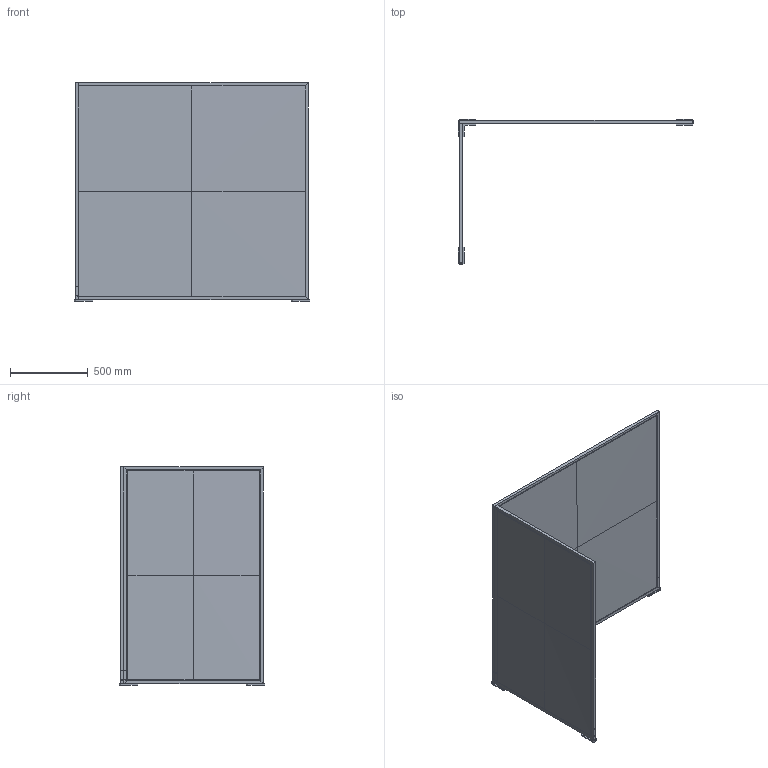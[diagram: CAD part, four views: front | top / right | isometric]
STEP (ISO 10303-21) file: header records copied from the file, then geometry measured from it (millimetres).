
FILE_DESCRIPTION(/* description */ (''),/* implementation_level */ '2;1');
FILE_NAME(/* name */ 'SL-WALL,LM,L',/* time_stamp */ '2021-10-22T15:25:29+02:00',/* author */ (''),/* organization */ (''),/* preprocessor_version */ 'ST-DEVELOPER v16.5',/* originating_system */ '',/* authorisation */ '');
FILE_SCHEMA (('CONFIG_CONTROL_DESIGN'));
Length unit declared in the file: millimetre
Products named in the file (1): Document
Bounding box: 1520.5 x 941 x 1408 mm (x, y, z)
Volume: 138739.8 mm3; surface area: 7275924.1 mm2
Topology: 3 solids, 17 shells, 162 faces, 391 edges, 256 vertices
Faces by surface type: plane 132, bspline 16, cylinder 14
Entity records: 4915 total; most frequent: CARTESIAN_POINT 2091, ORIENTED_EDGE 728, EDGE_CURVE 388, B_SPLINE_CURVE_WITH_KNOTS 346, VERTEX_POINT 252, EDGE_LOOP 178, ADVANCED_FACE 162, FACE_OUTER_BOUND 162
